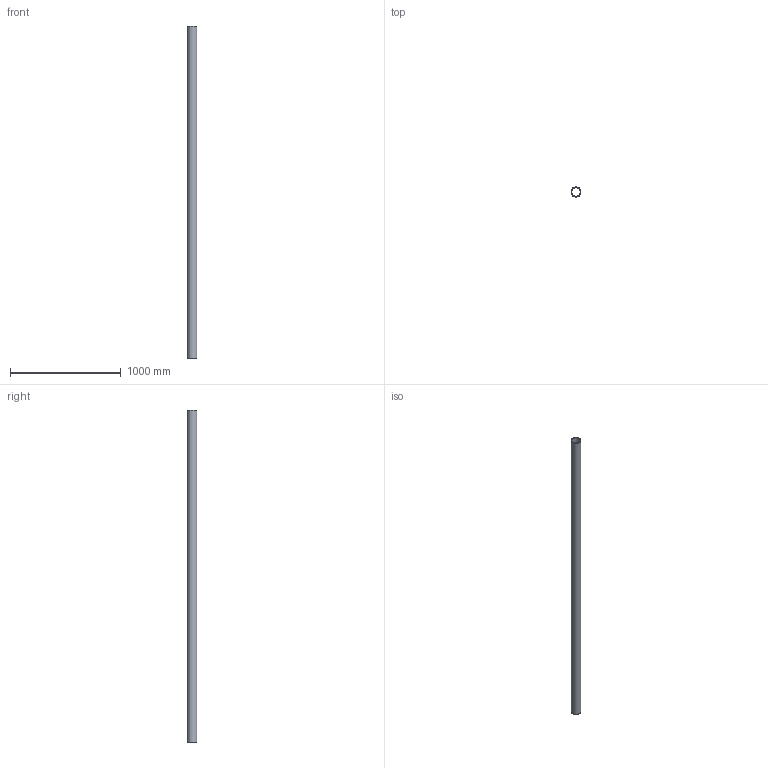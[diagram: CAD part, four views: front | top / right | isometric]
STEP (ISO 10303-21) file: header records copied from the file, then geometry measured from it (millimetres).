
FILE_DESCRIPTION(/* description */ (''),/* implementation_level */ '2;1');
FILE_NAME(/* name */ 'Z:\Geberit\Export\Export18\Rohr PE_Ipart\stp\308000.stp',/* time_stamp */ '2014-08-26T22:07:58+02:00',/* author */ ('Bründl'),/* organization */ (''),/* preprocessor_version */ 'ST-DEVELOPER v15.2',/* originating_system */ 'Autodesk Inventor 2014',/* authorisation */ '');
FILE_SCHEMA (('AUTOMOTIVE_DESIGN { 1 0 10303 214 3 1 1 }'));
Length unit declared in the file: millimetre
Products named in the file (1): 308000
Bounding box: 90 x 90 x 3000 mm (x, y, z)
Volume: 4380165.6 mm3; surface area: 1595707.6 mm2
Topology: 1 solids, 1 shells, 4 faces, 6 edges, 4 vertices
Faces by surface type: cylinder 2, plane 2
Full cylindrical faces by diameter (mm): 79 x1, 90 x1
Entity records: 113 total; most frequent: DIRECTION 18, CARTESIAN_POINT 13, AXIS2_PLACEMENT_3D 9, EDGE_LOOP 8, ORIENTED_EDGE 8, FACE_BOUND 6, STYLED_ITEM 5, CIRCLE 4
